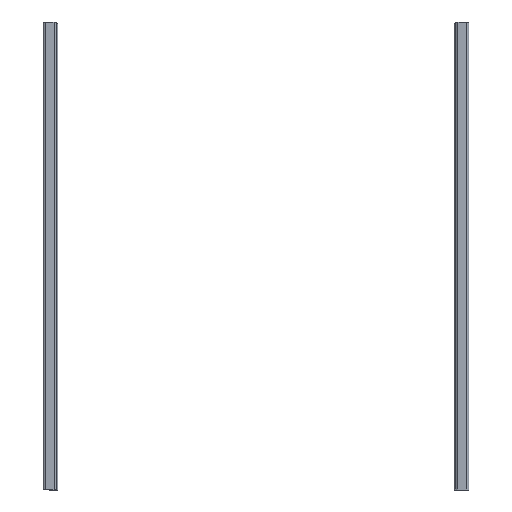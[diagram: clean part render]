
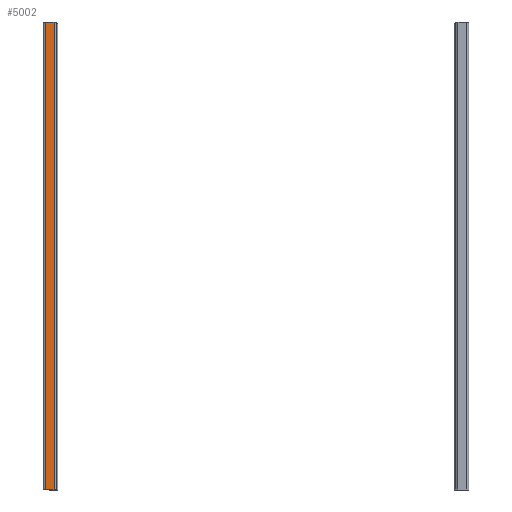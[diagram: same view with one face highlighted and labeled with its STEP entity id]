
A CAD part, front view. The second image highlights one B-rep face of the part: STEP entity #5002.
In plain terms, the highlighted planar face has unit normal (0, -1, 0).
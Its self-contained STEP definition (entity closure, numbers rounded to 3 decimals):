
#612=LINE('',#7570,#1054);
#740=LINE('',#7925,#1182);
#741=LINE('',#7928,#1183);
#742=LINE('',#7929,#1184);
#1054=VECTOR('',#6049,7.4);
#1182=VECTOR('',#6453,400.);
#1183=VECTOR('',#6456,7.4);
#1184=VECTOR('',#6457,400.);
#1430=PLANE('',#5399);
#1618=FACE_OUTER_BOUND('',#1909,.T.);
#1909=EDGE_LOOP('',(#4259,#4260,#4261,#4262));
#2484=VERTEX_POINT('',#7567);
#2485=VERTEX_POINT('',#7569);
#2574=VERTEX_POINT('',#7923);
#2575=VERTEX_POINT('',#7927);
#2998=EDGE_CURVE('',#2484,#2485,#612,.T.);
#3173=EDGE_CURVE('',#2574,#2484,#740,.T.);
#3174=EDGE_CURVE('',#2574,#2575,#741,.T.);
#3175=EDGE_CURVE('',#2485,#2575,#742,.T.);
#4259=ORIENTED_EDGE('',*,*,#3173,.F.);
#4260=ORIENTED_EDGE('',*,*,#3174,.T.);
#4261=ORIENTED_EDGE('',*,*,#3175,.F.);
#4262=ORIENTED_EDGE('',*,*,#2998,.F.);
#5002=ADVANCED_FACE('',(#1618),#1430,.T.);
#5399=AXIS2_PLACEMENT_3D('',#7926,#6454,#6455);
#6049=DIRECTION('',(-1.,0.,0.));
#6453=DIRECTION('',(0.,0.,-1.));
#6454=DIRECTION('center_axis',(0.,-1.,0.));
#6455=DIRECTION('ref_axis',(-1.,0.,0.));
#6456=DIRECTION('',(-1.,0.,0.));
#6457=DIRECTION('',(0.,0.,1.));
#7567=CARTESIAN_POINT('',(9.4,-22.25,-400.));
#7569=CARTESIAN_POINT('',(2.,-22.25,-400.));
#7570=CARTESIAN_POINT('',(11.4,-22.25,-400.));
#7923=CARTESIAN_POINT('',(9.4,-22.25,0.));
#7925=CARTESIAN_POINT('',(9.4,-22.25,0.));
#7926=CARTESIAN_POINT('Origin',(11.4,-22.25,0.));
#7927=CARTESIAN_POINT('',(2.,-22.25,0.));
#7928=CARTESIAN_POINT('',(11.4,-22.25,0.));
#7929=CARTESIAN_POINT('',(2.,-22.25,0.));
